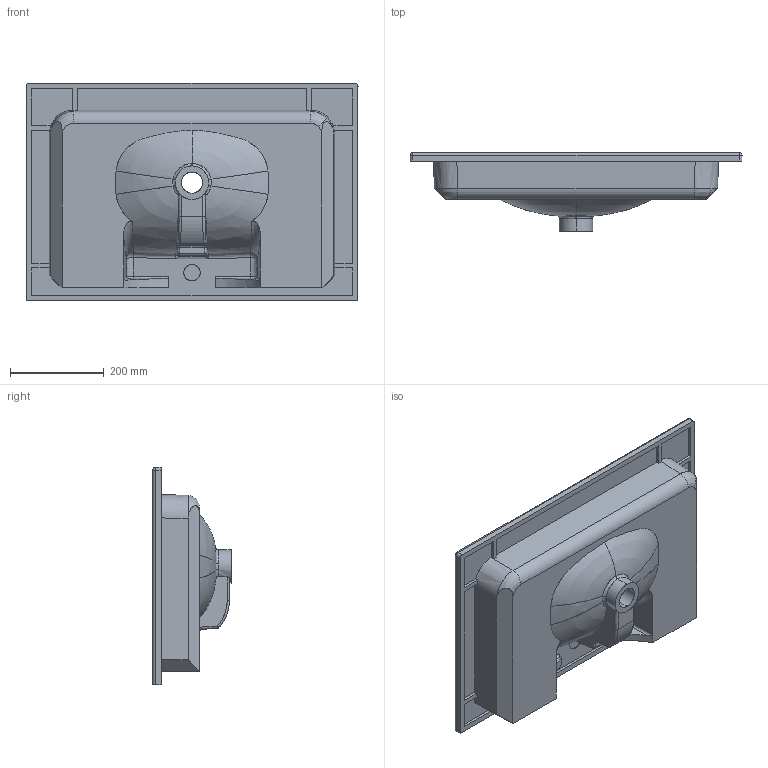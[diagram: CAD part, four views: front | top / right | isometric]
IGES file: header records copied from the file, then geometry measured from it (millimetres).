
Start section: SolidWorks IGES file using NURBS representation for surfaces
Global section: file name: C:\Users\User\Desktop\Soft\lavabi definitivi soft 46 m\soft 710 x 465\definitivo soft 710 x 465.IGS; native system: SolidWorks 2016; preprocessor: SolidWorks 2016; author: User; date: 200804.160416; units: millimetre
Bounding box: 710 x 168 x 465 mm (x, y, z)
Surface area: 957194 mm2 (no closed solid volume)
Topology: 0 solids, 0 shells, 147 faces, 2165 edges, 2157 vertices
Faces by surface type: bspline 147
